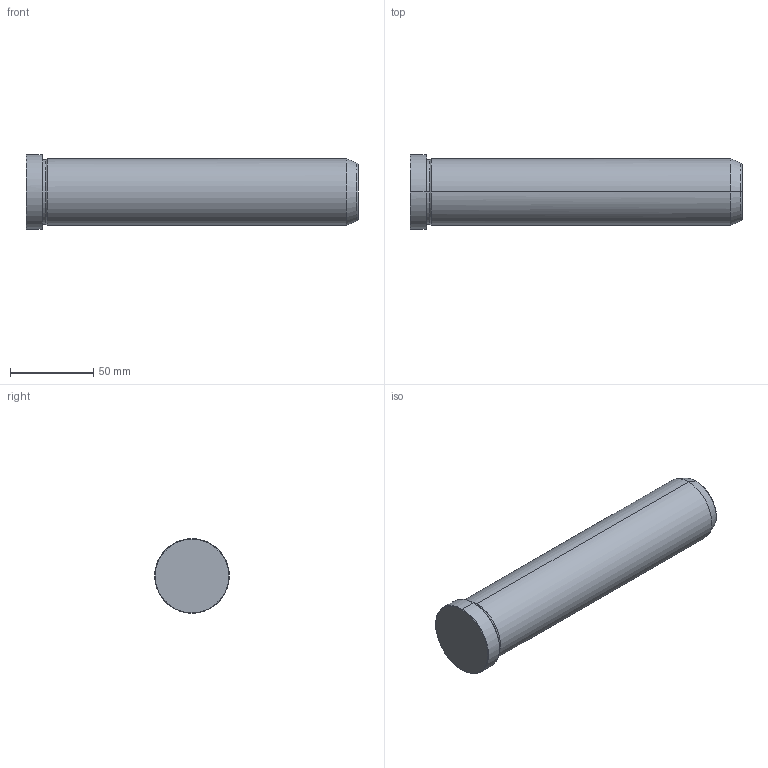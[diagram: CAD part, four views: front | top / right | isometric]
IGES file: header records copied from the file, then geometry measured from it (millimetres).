
Start section: START RECORD GO HERE.
Global section: file name: 549-40X200.igs; native system: DASSAULT SYSTEMES CATIA V5 R20 - www.3ds.com; preprocessor: CATIA Version 5 Release 20 ; author: Utente; organization: NB04-ASUS; date: 20211218.091436; units: millimetre
Bounding box: 200 x 45 x 45 mm (x, y, z)
Surface area: 28145.8 mm2 (no closed solid volume)
Topology: 0 solids, 0 shells, 19 faces, 112 edges, 112 vertices
Faces by surface type: revolution 16, plane 3
